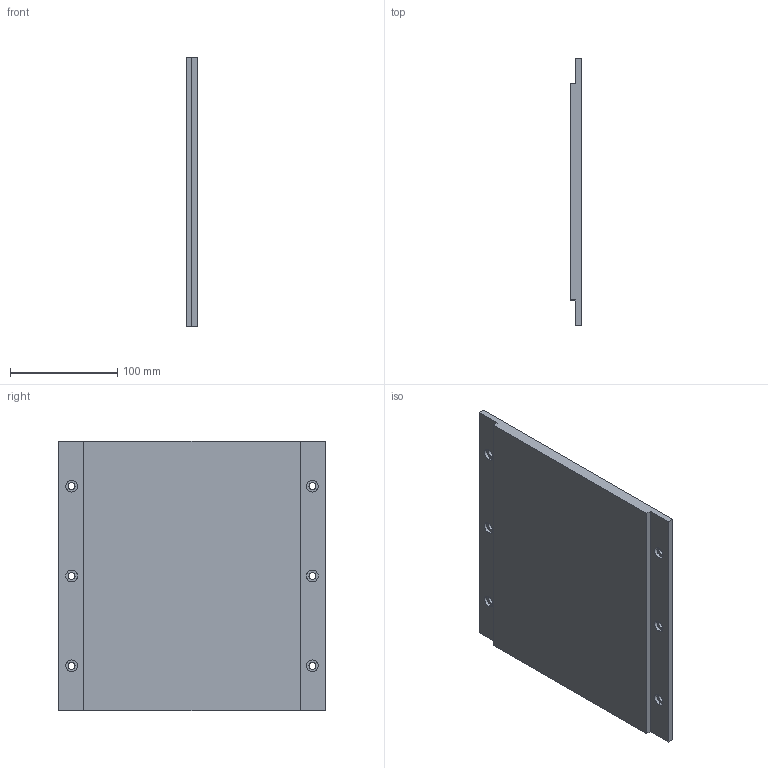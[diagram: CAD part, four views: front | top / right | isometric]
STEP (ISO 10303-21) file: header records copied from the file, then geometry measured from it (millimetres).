
FILE_DESCRIPTION (( 'STEP AP214' ), '1' );
FILE_NAME ('1-WKM200-252.STEP', '2025-09-05T12:15:53', ( '' ), ( '' ), 'SwSTEP 2.0', 'SolidWorks 2016', '' );
FILE_SCHEMA (( 'AUTOMOTIVE_DESIGN' ));
Length unit declared in the file: millimetre
Products named in the file (1): 1-WKM200-252
Bounding box: 10.8 x 250 x 252 mm (x, y, z)
Volume: 620412.4 mm3; surface area: 136983.2 mm2
Topology: 1 solids, 1 shells, 40 faces, 96 edges, 64 vertices
Faces by surface type: cylinder 24, plane 16
Entity records: 1246 total; most frequent: DIRECTION 226, CARTESIAN_POINT 201, ORIENTED_EDGE 192, EDGE_CURVE 96, AXIS2_PLACEMENT_3D 89, VERTEX_POINT 64, EDGE_LOOP 58, LINE 48
